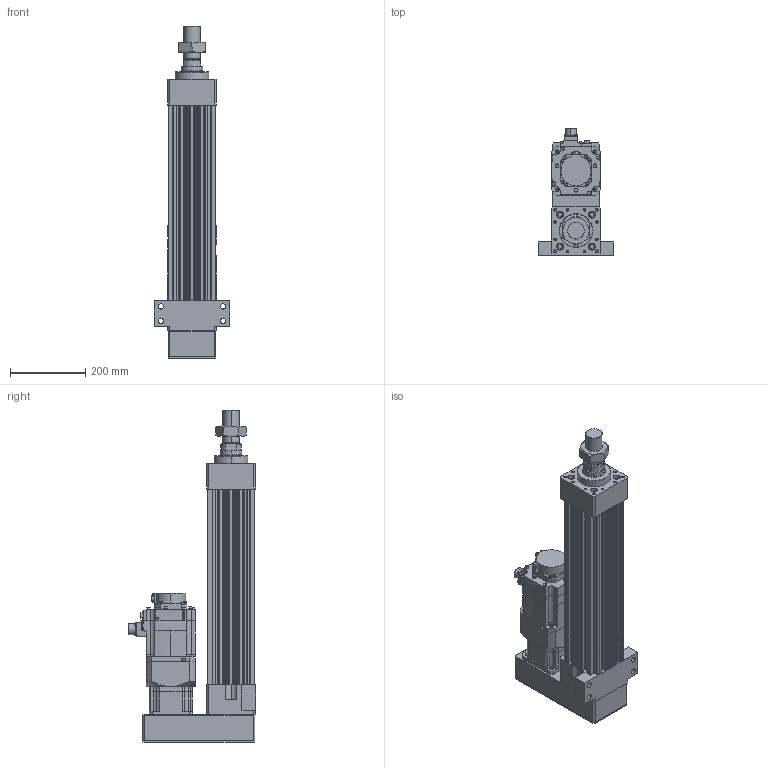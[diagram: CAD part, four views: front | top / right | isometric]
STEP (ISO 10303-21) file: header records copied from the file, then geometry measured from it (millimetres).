
FILE_DESCRIPTION (( 'STEP AP203' ), '1' );
FILE_NAME ('HES130NS(FS)(HS)-P300-W015G00-M-FFC.STEP', '2026-06-10T06:11:22', ( 'tms' ), ( '' ), 'SwSTEP 2.0', 'SolidWorks 2013', '' );
FILE_SCHEMA (( 'CONFIG_CONTROL_DESIGN' ));
Length unit declared in the file: millimetre
Products named in the file (8): HES130NS(FS)(HS)-P300-W015G00-M-FFC; M45X1.5P; HES130-FFC-300; AB1152; HES130-P-G120; HES130-M-ROD-300; HG-SR152B; AB1151
Assembly tree (7 placements, depth 2):
  HES130NS(FS)(HS)-P300-W015G00-M-FFC
    HES130-FFC-300
    HES130-M-ROD-300
    M45X1.5P
    HES130-P-G120
    AB1151
    AB1152
    HG-SR152B
Bounding box: 200 x 337.49 x 882 mm (x, y, z)
Volume: 10727250.2 mm3; surface area: 1317669.2 mm2
Topology: 5 solids, 12 shells, 1244 faces, 3150 edges, 2027 vertices
Faces by surface type: cylinder 584, plane 540, cone 106, bspline 10, torus 4
Entity records: 39199 total; most frequent: CARTESIAN_POINT 7512, DIRECTION 6807, ORIENTED_EDGE 6208, EDGE_CURVE 3114, AXIS2_PLACEMENT_3D 2543, VERTEX_POINT 2027, VECTOR 1721, LINE 1721
